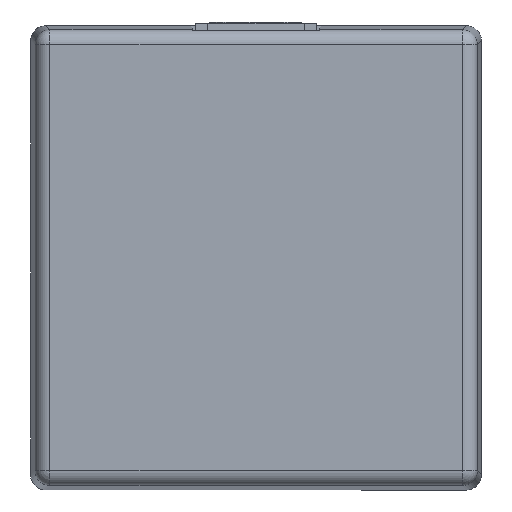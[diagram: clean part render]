
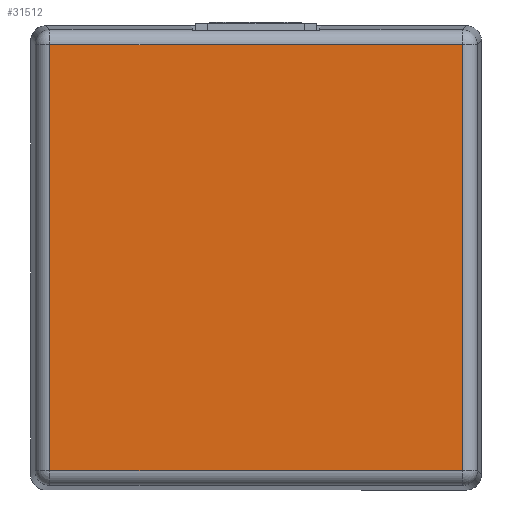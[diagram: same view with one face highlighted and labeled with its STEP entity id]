
A CAD part, top view. The second image highlights one B-rep face of the part: STEP entity #31512.
In plain terms, the highlighted planar face has unit normal (0, 0, 1) as drawn and (0, 0, -1) by its records, which use the part's own axes.
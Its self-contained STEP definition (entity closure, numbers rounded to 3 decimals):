
#10879=PLANE('',#32772);
#12209=VERTEX_POINT('',#40020);
#12210=VERTEX_POINT('',#40022);
#12305=VERTEX_POINT('',#40320);
#12306=VERTEX_POINT('',#40322);
#14254=VECTOR('',#34672,1.);
#14336=VECTOR('',#34794,1.);
#14337=VECTOR('',#34795,1.);
#14338=VECTOR('',#34796,1.);
#16686=LINE('',#40021,#14254);
#16768=LINE('',#40319,#14336);
#16769=LINE('',#40321,#14337);
#16770=LINE('',#40323,#14338);
#19127=EDGE_CURVE('',#12209,#12210,#16686,.T.);
#19233=EDGE_CURVE('',#12210,#12305,#16768,.T.);
#19234=EDGE_CURVE('',#12306,#12209,#16769,.T.);
#19235=EDGE_CURVE('',#12305,#12306,#16770,.T.);
#22469=ORIENTED_EDGE('',*,*,#19233,.F.);
#22470=ORIENTED_EDGE('',*,*,#19127,.F.);
#22471=ORIENTED_EDGE('',*,*,#19234,.F.);
#22472=ORIENTED_EDGE('',*,*,#19235,.F.);
#28748=EDGE_LOOP('',(#22469,#22470,#22471,#22472));
#30130=FACE_BOUND('',#28748,.T.);
#31512=ADVANCED_FACE('',(#30130),#10879,.F.);
#32772=AXIS2_PLACEMENT_3D('',#40318,#34793,$);
#34672=DIRECTION('',(1.,0.,0.));
#34793=DIRECTION('',(0.,0.,1.));
#34794=DIRECTION('',(0.,1.,0.));
#34795=DIRECTION('',(0.,-1.,0.));
#34796=DIRECTION('',(-1.,0.,0.));
#40020=CARTESIAN_POINT('',(-17.324,-17.895,-0.032));
#40021=CARTESIAN_POINT('',(-17.324,-17.895,-0.032));
#40022=CARTESIAN_POINT('',(17.324,-17.895,-0.032));
#40318=CARTESIAN_POINT('',(0.,0.,-0.032));
#40319=CARTESIAN_POINT('',(17.324,-17.895,-0.032));
#40320=CARTESIAN_POINT('',(17.324,17.895,-0.032));
#40321=CARTESIAN_POINT('',(-17.324,17.895,-0.032));
#40322=CARTESIAN_POINT('',(-17.324,17.895,-0.032));
#40323=CARTESIAN_POINT('',(17.324,17.895,-0.032));
